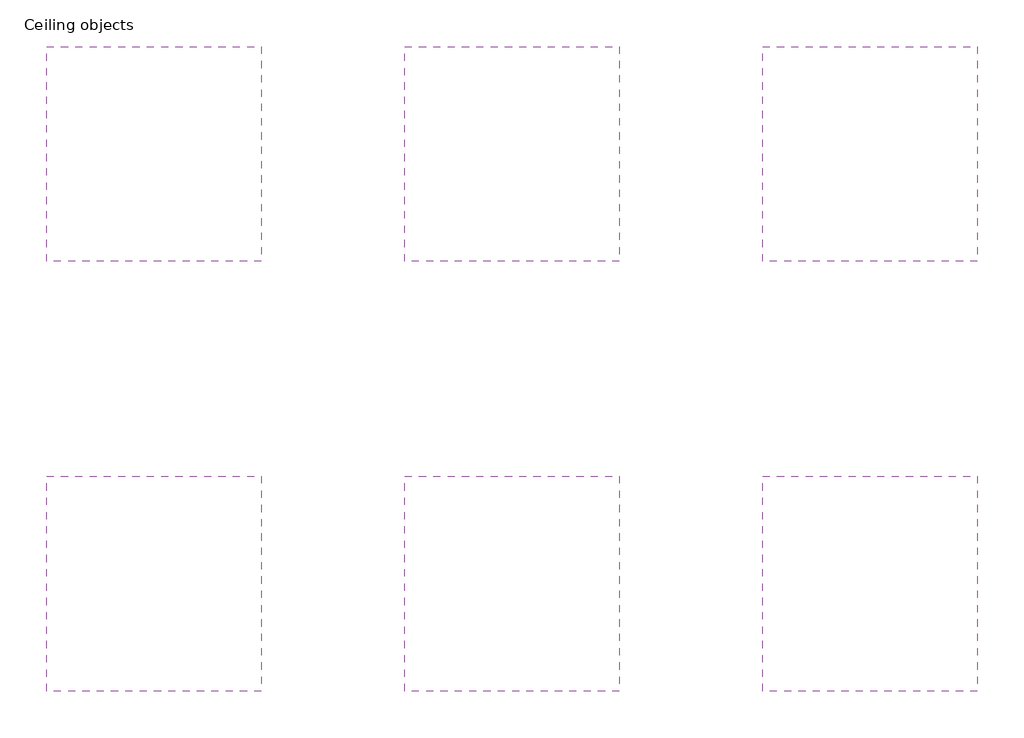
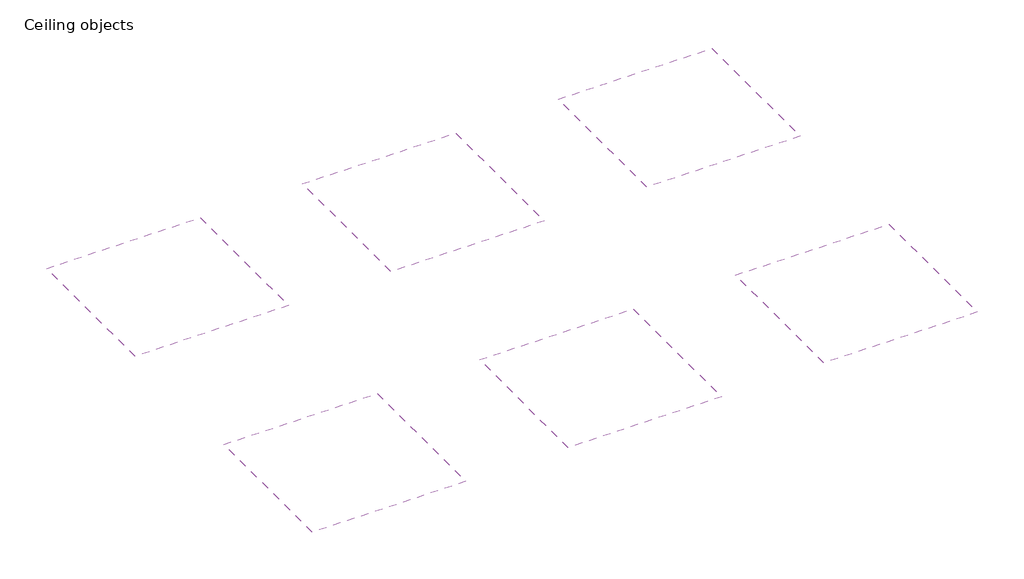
# One storey: 6 coverings.
"""IFC4 building model written with IfcOpenShell, lengths in millimetres."""

import ifcopenshell
import ifcopenshell.guid

model = None  # the IFC model being written
_history = None  # IfcOwnerHistory: only IFC2X3 demands one
_inside = {}  # id of a spatial element -> (the spatial element, [elements in it])
_under = {}  # id of a project, library or spatial element -> (it, [spatial elements below it])
_declared = {}  # id of a project -> (the project, [libraries it declares])
_typed = {}  # id of a type object -> (the type object, [elements of that type])
_made_of = {}  # id of a material, layer set ... -> (it, [elements and type objects made of it])


def new_model(schema):
    """Start an empty IFC model of exactly this schema.

    Asked for "IFC4X3", IfcOpenShell would pick the latest addendum, in which some entities
    have other attributes; the version numbers below select the first issue.
    IFC2X3 requires an IfcOwnerHistory on every rooted entity: one is made here for all.
    """
    global model, _history
    if schema == "IFC4X3":
        model = ifcopenshell.file(schema_version=(4, 3, 0, 0))
    else:
        model = ifcopenshell.file(schema=schema)
    _inside.clear()
    _under.clear()
    _declared.clear()
    _typed.clear()
    _made_of.clear()
    _history = None
    if model.schema == "IFC2X3":
        org = make("IfcOrganization", Name="unknown")
        user = make(
            "IfcPersonAndOrganization",
            ThePerson=make("IfcPerson", FamilyName="unknown"),
            TheOrganization=org,
        )
        app = make(
            "IfcApplication",
            ApplicationDeveloper=org,
            Version="unknown",
            ApplicationFullName="unknown",
            ApplicationIdentifier="unknown",
        )
        _history = make(
            "IfcOwnerHistory",
            OwningUser=user,
            OwningApplication=app,
            ChangeAction="ADDED",
            CreationDate=0,
        )
    return model


def make(cls, **values):
    """One entity of the class cls with the attributes given. An attribute that is None is left unset."""
    return model.create_entity(
        cls, **{name: value for name, value in values.items() if value is not None}
    )


def rooted(cls, **values):
    """An entity with a GlobalId (a new one), such as an element, a storey or a relation."""
    return make(cls, GlobalId=ifcopenshell.guid.new(), OwnerHistory=_history, **values)


def si_unit(unit_type, name, prefix=None):
    """IfcSIUnit, for example si_unit("LENGTHUNIT", "METRE", prefix="MILLI")."""
    return make("IfcSIUnit", UnitType=unit_type, Prefix=prefix, Name=name)


def assignment(units):
    """IfcUnitAssignment: the units of a project."""
    return None if units is None else make("IfcUnitAssignment", Units=units)


def point(xyz):
    """IfcCartesianPoint."""
    return None if xyz is None else make("IfcCartesianPoint", Coordinates=xyz)


def direction(xyz):
    """IfcDirection."""
    return None if xyz is None else make("IfcDirection", DirectionRatios=xyz)


def frame(location, z_axis=None, x_axis=None):
    """IfcAxis2Placement3D, a coordinate frame: its origin and axes. An axis left out is left unset."""
    return make(
        "IfcAxis2Placement3D",
        Location=point(location),
        Axis=direction(z_axis),
        RefDirection=direction(x_axis),
    )


def origin():
    """The frame at (0, 0, 0) with its axes left unset."""
    return frame((0.0, 0.0, 0.0))


def place(relative_to, where):
    """IfcLocalPlacement: puts the frame where relative to a parent placement (None: the world)."""
    return make(
        "IfcLocalPlacement", PlacementRelTo=relative_to, RelativePlacement=where
    )


def context(
    kind, dimensions, precision=None, world=None, true_north=None, identifier=None
):
    """IfcGeometricRepresentationContext, for example the 3D "Model" context."""
    return make(
        "IfcGeometricRepresentationContext",
        ContextIdentifier=identifier,
        ContextType=kind,
        CoordinateSpaceDimension=dimensions,
        Precision=precision,
        WorldCoordinateSystem=world,
        TrueNorth=true_north,
    )


def project(units=None, contexts=None):
    """IfcProject with its units and contexts."""
    return rooted(
        "IfcProject",
        Name="project",
        RepresentationContexts=contexts,
        UnitsInContext=assignment(units),
    )


def spatial(cls, under=None, at=None, **own):
    """A site, building, storey or space (cls), placed at a placement, below another one or the project."""
    s = rooted(cls, ObjectPlacement=at, **own)
    if under is not None:
        _under.setdefault(under.id(), (under, []))[1].append(s)
    return s


def polyline(points):
    """IfcPolyline through the points."""
    return make("IfcPolyline", Points=[point(p) for p in points])


def outline(outer, holes=None, kind="AREA"):
    """IfcArbitraryClosedProfileDef: a profile drawn as a closed curve; with holes, ...WithVoids."""
    if holes is None:
        return make("IfcArbitraryClosedProfileDef", ProfileType=kind, OuterCurve=outer)
    return make(
        "IfcArbitraryProfileDefWithVoids",
        ProfileType=kind,
        OuterCurve=outer,
        InnerCurves=holes,
    )


def extrude(swept, where, along, depth):
    """IfcExtrudedAreaSolid: the profile swept, set in the frame where, extruded along a direction by depth."""
    return make(
        "IfcExtrudedAreaSolid",
        SweptArea=swept,
        Position=where,
        ExtrudedDirection=direction(along),
        Depth=depth,
    )


def shape(context_of_items, identifier, shape_type, items):
    """IfcShapeRepresentation: the items that make up one representation, for example the "Body"."""
    return make(
        "IfcShapeRepresentation",
        ContextOfItems=context_of_items,
        RepresentationIdentifier=identifier,
        RepresentationType=shape_type,
        Items=items,
    )


def made_of(thing, what):
    """Note that an element or type object is made of a material, layer set ...; save() writes the relation."""
    if what is not None:
        _made_of.setdefault(what.id(), (what, []))[1].append(thing)
    return thing


def element(
    cls,
    number,
    at=None,
    inside=None,
    cuts=None,
    type_object=None,
    material=None,
    context=None,
    identifier="Body",
    shape_type=None,
    held_by="IfcProductDefinitionShape",
    body=None,
    shapes=None,
    **own,
):
    """One element of the class cls, such as IfcWall. Its Tag is "e" and its number.

    at: its placement. inside: the storey or other place that contains it. cuts: it is an
    opening in that element (IfcRelVoidsElement). A single representation is given by context,
    identifier, shape_type and body (its items); several are given by shapes. held_by: the class
    of the entity that holds the representations. save() writes the other relations.
    """
    e = rooted(cls, Tag="e%d" % number, ObjectPlacement=at, **own)
    if body is not None:
        shapes = [shape(context, identifier, shape_type, body)]
    if shapes is not None:
        e.Representation = make(held_by, Representations=shapes)
    if inside is not None:
        _inside.setdefault(inside.id(), (inside, []))[1].append(e)
    if cuts is not None:
        rooted(
            "IfcRelVoidsElement", RelatingBuildingElement=cuts, RelatedOpeningElement=e
        )
    if type_object is not None:
        _typed.setdefault(type_object.id(), (type_object, []))[1].append(e)
    return made_of(e, material)


def aggregate(whole, parts):
    """IfcRelAggregates: a whole, such as a stair, and the parts it consists of."""
    return rooted("IfcRelAggregates", RelatingObject=whole, RelatedObjects=parts)


def save(model, path):
    """Write the relations noted so far, then the file.

    IfcRelAggregates (storeys below a building ...), IfcRelContainedInSpatialStructure (elements
    in a storey), IfcRelDefinesByType, IfcRelAssociatesMaterial and IfcRelDeclares: one each for
    every whole, place, type object, material and project.
    """
    for whole, parts in _under.values():
        aggregate(whole, parts)
    for where, things in _inside.values():
        rooted(
            "IfcRelContainedInSpatialStructure",
            RelatedElements=things,
            RelatingStructure=where,
        )
    for kind, things in _typed.values():
        rooted("IfcRelDefinesByType", RelatedObjects=things, RelatingType=kind)
    for what, things in _made_of.values():
        rooted("IfcRelAssociatesMaterial", RelatedObjects=things, RelatingMaterial=what)
    for by, libraries in _declared.values():
        rooted("IfcRelDeclares", RelatingContext=by, RelatedDefinitions=libraries)
    model.write(path)


model = new_model("IFC4")

# Units and contexts
model_context = context("Model", 3, world=origin())
ifc_project = project(units=[si_unit("LENGTHUNIT", "METRE", prefix="MILLI")], contexts=[model_context])

# Site, building, storey
site = spatial("IfcSite", under=ifc_project)
building = spatial("IfcBuilding", under=site)
storey = spatial("IfcBuildingStorey", under=building, Name="Ceiling objects", Elevation=0.0)

# Coverings
placement = place(None, origin())
element("IfcCovering", 1, ObjectType="Knauf Danoline Danotile Regular 600x600x6.5_S15_A", at=placement, inside=storey, context=model_context, shape_type="SweptSolid", body=[
    extrude(outline(polyline([(-4783.0103193, 8117.0281757), (-4783.0103193, 5117.0281757), (-7783.0103193, 5117.0281757), (-7783.0103193, 8117.0281757), (-4783.0103193, 8117.0281757)])), frame((0.0, 0.0, 2600.0), z_axis=(0.0, 0.0, 1.0), x_axis=(1.0, 0.0, 0.0)), (0.0, 0.0, 1.0), 38.0000012),
])
element("IfcCovering", 2, ObjectType="Knauf Danoline Danotile Regular 600x600x6.5_S24_A", at=placement, inside=storey, context=model_context, shape_type="SweptSolid", body=[
    extrude(outline(polyline([(-4783.0103193, 2117.0279837), (-4783.0103193, -882.9720163), (-7783.0103193, -882.9720163), (-7783.0103193, 2117.0279837), (-4783.0103193, 2117.0279837)])), frame((0.0, 0.0, 2600.0), z_axis=(0.0, 0.0, 1.0), x_axis=(1.0, 0.0, 0.0)), (0.0, 0.0, 1.0), 38.0000012),
])
element("IfcCovering", 3, ObjectType="Knauf Danoline Danotile Regular 600x600x9.5_S15_A", at=placement, inside=storey, context=model_context, shape_type="SweptSolid", body=[
    extrude(outline(polyline([(216.9898407, 8117.0281757), (216.9898407, 5117.0281757), (-2783.0101593, 5117.0281757), (-2783.0101593, 8117.0281757), (216.9898407, 8117.0281757)])), frame((0.0, 0.0, 2600.0), z_axis=(0.0, 0.0, 1.0), x_axis=(1.0, 0.0, 0.0)), (0.0, 0.0, 1.0), 38.0000012),
])
element("IfcCovering", 4, ObjectType="Knauf Danoline Danotile Regular 600x600x9.5_S24_A", at=placement, inside=storey, context=model_context, shape_type="SweptSolid", body=[
    extrude(outline(polyline([(216.9898407, 2117.0279837), (216.9898407, -882.9720163), (-2783.0101593, -882.9720163), (-2783.0101593, 2117.0279837), (216.9898407, 2117.0279837)])), frame((0.0, 0.0, 2600.0), z_axis=(0.0, 0.0, 1.0), x_axis=(1.0, 0.0, 0.0)), (0.0, 0.0, 1.0), 38.0000012),
])
element("IfcCovering", 5, ObjectType="Knauf Danoline Danotile Regular 625x625x9.5_S15_A", at=placement, inside=storey, context=model_context, shape_type="SweptSolid", body=[
    extrude(outline(polyline([(5216.9900007, 8117.0281757), (5216.9900007, 5117.0281757), (2216.9900007, 5117.0281757), (2216.9900007, 8117.0281757), (5216.9900007, 8117.0281757)])), frame((0.0, 0.0, 2600.0), z_axis=(0.0, 0.0, 1.0), x_axis=(1.0, 0.0, 0.0)), (0.0, 0.0, 1.0), 38.0000012),
])
element("IfcCovering", 6, ObjectType="Knauf Danoline Danotile Regular 625x625x9.5_S24_A", at=placement, inside=storey, context=model_context, shape_type="SweptSolid", body=[
    extrude(outline(polyline([(5216.9900007, 2117.0279837), (5216.9900007, -882.9720163), (2216.9900007, -882.9720163), (2216.9900007, 2117.0279837), (5216.9900007, 2117.0279837)])), frame((0.0, 0.0, 2600.0), z_axis=(0.0, 0.0, 1.0), x_axis=(1.0, 0.0, 0.0)), (0.0, 0.0, 1.0), 38.0000012),
])

save(model, "model.ifc")
